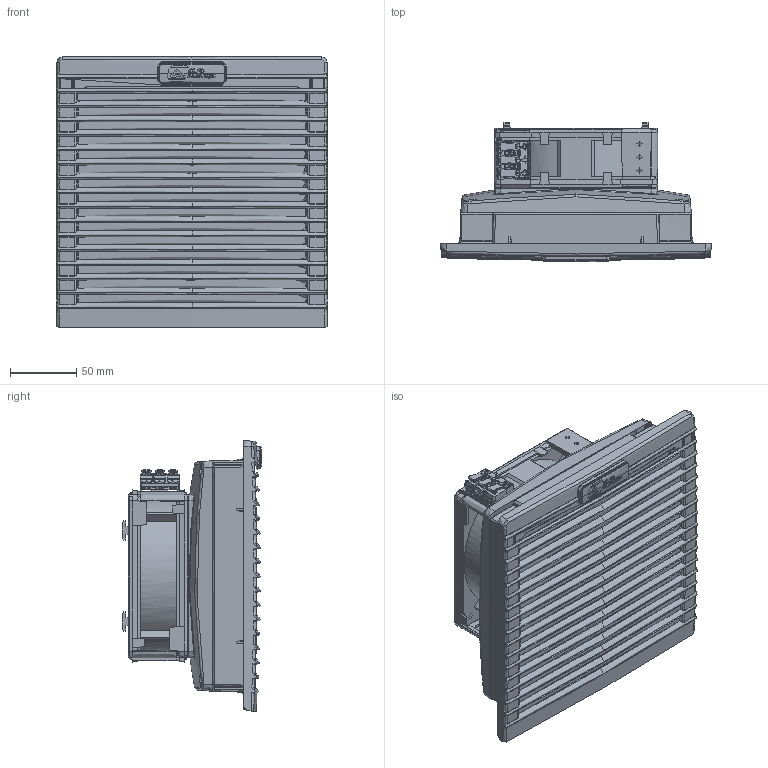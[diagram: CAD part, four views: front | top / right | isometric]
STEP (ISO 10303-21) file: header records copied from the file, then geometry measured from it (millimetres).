
FILE_DESCRIPTION(/* description */ (''),/* implementation_level */ '2;1');
FILE_NAME(/* name */ 'ATV320~1',/* time_stamp */ '2020-06-29T16:51:47+02:00',/* author */ (''),/* organization */ (''),/* preprocessor_version */ 'ST-DEVELOPER v16.5',/* originating_system */ '',/* authorisation */ '');
FILE_SCHEMA (('AUTOMOTIVE_DESIGN'));
Products named in the file (1): Document
Bounding box: 204 x 105.52 x 204 mm (x, y, z)
Volume: 111398.8 mm3; surface area: 534984.8 mm2
Topology: 2 solids, 5146 shells, 5373 faces, 26782 edges, 26326 vertices
Faces by surface type: bspline 3910, plane 1463
Entity records: 481494 total; most frequent: CARTESIAN_POINT 305274, ORIENTED_EDGE 27267, EDGE_CURVE 26557, VERTEX_POINT 26328, B_SPLINE_CURVE_WITH_KNOTS 22629, EDGE_LOOP 5524, ADVANCED_FACE 5373, FACE_OUTER_BOUND 5373
